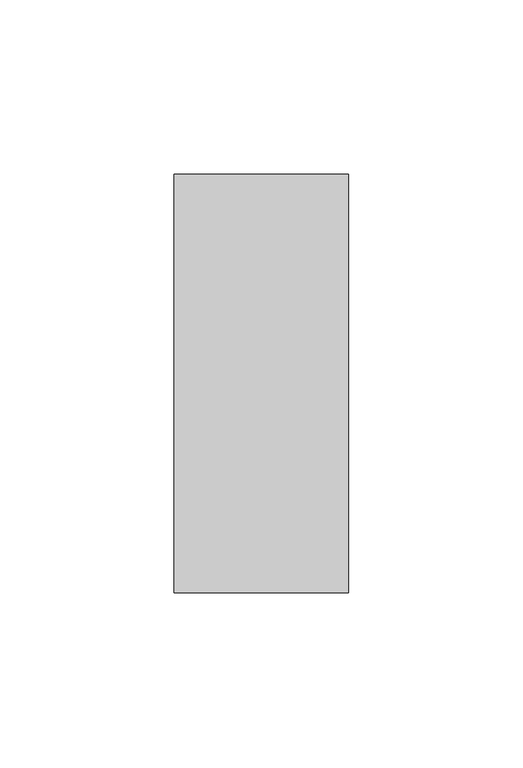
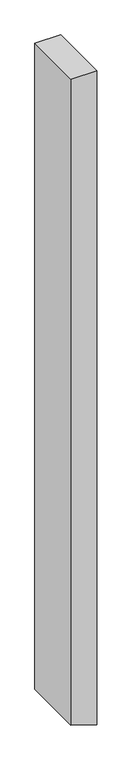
"""IFC4 building model written with IfcOpenShell, lengths in millimetres: member geometry, Прямоугольный импост : 50х120 мм."""

import ifcopenshell
import ifcopenshell.guid

model = None  # the IFC model being written
_history = None  # IfcOwnerHistory: only IFC2X3 demands one
_inside = {}  # id of a spatial element -> (the spatial element, [elements in it])
_under = {}  # id of a project, library or spatial element -> (it, [spatial elements below it])
_declared = {}  # id of a project -> (the project, [libraries it declares])
_typed = {}  # id of a type object -> (the type object, [elements of that type])
_made_of = {}  # id of a material, layer set ... -> (it, [elements and type objects made of it])


def new_model(schema):
    """Start an empty IFC model of exactly this schema.

    Asked for "IFC4X3", IfcOpenShell would pick the latest addendum, in which some entities
    have other attributes; the version numbers below select the first issue.
    IFC2X3 requires an IfcOwnerHistory on every rooted entity: one is made here for all.
    """
    global model, _history
    if schema == "IFC4X3":
        model = ifcopenshell.file(schema_version=(4, 3, 0, 0))
    else:
        model = ifcopenshell.file(schema=schema)
    _inside.clear()
    _under.clear()
    _declared.clear()
    _typed.clear()
    _made_of.clear()
    _history = None
    if model.schema == "IFC2X3":
        org = make("IfcOrganization", Name="unknown")
        user = make(
            "IfcPersonAndOrganization",
            ThePerson=make("IfcPerson", FamilyName="unknown"),
            TheOrganization=org,
        )
        app = make(
            "IfcApplication",
            ApplicationDeveloper=org,
            Version="unknown",
            ApplicationFullName="unknown",
            ApplicationIdentifier="unknown",
        )
        _history = make(
            "IfcOwnerHistory",
            OwningUser=user,
            OwningApplication=app,
            ChangeAction="ADDED",
            CreationDate=0,
        )
    return model


def make(cls, **values):
    """One entity of the class cls with the attributes given. An attribute that is None is left unset."""
    return model.create_entity(
        cls, **{name: value for name, value in values.items() if value is not None}
    )


def rooted(cls, **values):
    """An entity with a GlobalId (a new one), such as an element, a storey or a relation."""
    return make(cls, GlobalId=ifcopenshell.guid.new(), OwnerHistory=_history, **values)


def si_unit(unit_type, name, prefix=None):
    """IfcSIUnit, for example si_unit("LENGTHUNIT", "METRE", prefix="MILLI")."""
    return make("IfcSIUnit", UnitType=unit_type, Prefix=prefix, Name=name)


def assignment(units):
    """IfcUnitAssignment: the units of a project."""
    return None if units is None else make("IfcUnitAssignment", Units=units)


def point(xyz):
    """IfcCartesianPoint."""
    return None if xyz is None else make("IfcCartesianPoint", Coordinates=xyz)


def direction(xyz):
    """IfcDirection."""
    return None if xyz is None else make("IfcDirection", DirectionRatios=xyz)


def frame(location, z_axis=None, x_axis=None):
    """IfcAxis2Placement3D, a coordinate frame: its origin and axes. An axis left out is left unset."""
    return make(
        "IfcAxis2Placement3D",
        Location=point(location),
        Axis=direction(z_axis),
        RefDirection=direction(x_axis),
    )


def origin():
    """The frame at (0, 0, 0) with its axes left unset."""
    return frame((0.0, 0.0, 0.0))


def place(relative_to, where):
    """IfcLocalPlacement: puts the frame where relative to a parent placement (None: the world)."""
    return make(
        "IfcLocalPlacement", PlacementRelTo=relative_to, RelativePlacement=where
    )


def context(
    kind, dimensions, precision=None, world=None, true_north=None, identifier=None
):
    """IfcGeometricRepresentationContext, for example the 3D "Model" context."""
    return make(
        "IfcGeometricRepresentationContext",
        ContextIdentifier=identifier,
        ContextType=kind,
        CoordinateSpaceDimension=dimensions,
        Precision=precision,
        WorldCoordinateSystem=world,
        TrueNorth=true_north,
    )


def project(units=None, contexts=None):
    """IfcProject with its units and contexts."""
    return rooted(
        "IfcProject",
        Name="project",
        RepresentationContexts=contexts,
        UnitsInContext=assignment(units),
    )


def spatial(cls, under=None, at=None, **own):
    """A site, building, storey or space (cls), placed at a placement, below another one or the project."""
    s = rooted(cls, ObjectPlacement=at, **own)
    if under is not None:
        _under.setdefault(under.id(), (under, []))[1].append(s)
    return s


def polyline(points):
    """IfcPolyline through the points."""
    return make("IfcPolyline", Points=[point(p) for p in points])


def outline(outer, holes=None, kind="AREA"):
    """IfcArbitraryClosedProfileDef: a profile drawn as a closed curve; with holes, ...WithVoids."""
    if holes is None:
        return make("IfcArbitraryClosedProfileDef", ProfileType=kind, OuterCurve=outer)
    return make(
        "IfcArbitraryProfileDefWithVoids",
        ProfileType=kind,
        OuterCurve=outer,
        InnerCurves=holes,
    )


def extrude(swept, where, along, depth):
    """IfcExtrudedAreaSolid: the profile swept, set in the frame where, extruded along a direction by depth."""
    return make(
        "IfcExtrudedAreaSolid",
        SweptArea=swept,
        Position=where,
        ExtrudedDirection=direction(along),
        Depth=depth,
    )


def shape(context_of_items, identifier, shape_type, items):
    """IfcShapeRepresentation: the items that make up one representation, for example the "Body"."""
    return make(
        "IfcShapeRepresentation",
        ContextOfItems=context_of_items,
        RepresentationIdentifier=identifier,
        RepresentationType=shape_type,
        Items=items,
    )


def source(mapping_origin, context_of_items, identifier, shape_type, items):
    """IfcRepresentationMap: a shape defined once, which mapped items show again and again."""
    return make(
        "IfcRepresentationMap",
        MappingOrigin=mapping_origin,
        MappedRepresentation=shape(context_of_items, identifier, shape_type, items),
    )


def transform(
    local_origin,
    x_axis=None,
    y_axis=None,
    z_axis=None,
    scale=None,
    scale2=None,
    scale3=None,
    uniform=True,
):
    """IfcCartesianTransformationOperator3D, or its non-uniform kind. x_axis, y_axis, z_axis: its Axis1, 2, 3."""
    if uniform:
        return make(
            "IfcCartesianTransformationOperator3D",
            Axis1=direction(x_axis),
            Axis2=direction(y_axis),
            LocalOrigin=point(local_origin),
            Scale=scale,
            Axis3=direction(z_axis),
        )
    return make(
        "IfcCartesianTransformationOperator3DnonUniform",
        Axis1=direction(x_axis),
        Axis2=direction(y_axis),
        LocalOrigin=point(local_origin),
        Scale=scale,
        Axis3=direction(z_axis),
        Scale2=scale2,
        Scale3=scale3,
    )


def mapped(mapping_source, mapping_target):
    """IfcMappedItem: shows the shape of a source again, moved by a transform."""
    return make(
        "IfcMappedItem", MappingSource=mapping_source, MappingTarget=mapping_target
    )


def made_of(thing, what):
    """Note that an element or type object is made of a material, layer set ...; save() writes the relation."""
    if what is not None:
        _made_of.setdefault(what.id(), (what, []))[1].append(thing)
    return thing


def element(
    cls,
    number,
    at=None,
    inside=None,
    cuts=None,
    type_object=None,
    material=None,
    context=None,
    identifier="Body",
    shape_type=None,
    held_by="IfcProductDefinitionShape",
    body=None,
    shapes=None,
    **own,
):
    """One element of the class cls, such as IfcWall. Its Tag is "e" and its number.

    at: its placement. inside: the storey or other place that contains it. cuts: it is an
    opening in that element (IfcRelVoidsElement). A single representation is given by context,
    identifier, shape_type and body (its items); several are given by shapes. held_by: the class
    of the entity that holds the representations. save() writes the other relations.
    """
    e = rooted(cls, Tag="e%d" % number, ObjectPlacement=at, **own)
    if body is not None:
        shapes = [shape(context, identifier, shape_type, body)]
    if shapes is not None:
        e.Representation = make(held_by, Representations=shapes)
    if inside is not None:
        _inside.setdefault(inside.id(), (inside, []))[1].append(e)
    if cuts is not None:
        rooted(
            "IfcRelVoidsElement", RelatingBuildingElement=cuts, RelatedOpeningElement=e
        )
    if type_object is not None:
        _typed.setdefault(type_object.id(), (type_object, []))[1].append(e)
    return made_of(e, material)


def aggregate(whole, parts):
    """IfcRelAggregates: a whole, such as a stair, and the parts it consists of."""
    return rooted("IfcRelAggregates", RelatingObject=whole, RelatedObjects=parts)


def save(model, path):
    """Write the relations noted so far, then the file.

    IfcRelAggregates (storeys below a building ...), IfcRelContainedInSpatialStructure (elements
    in a storey), IfcRelDefinesByType, IfcRelAssociatesMaterial and IfcRelDeclares: one each for
    every whole, place, type object, material and project.
    """
    for whole, parts in _under.values():
        aggregate(whole, parts)
    for where, things in _inside.values():
        rooted(
            "IfcRelContainedInSpatialStructure",
            RelatedElements=things,
            RelatingStructure=where,
        )
    for kind, things in _typed.values():
        rooted("IfcRelDefinesByType", RelatedObjects=things, RelatingType=kind)
    for what, things in _made_of.values():
        rooted("IfcRelAssociatesMaterial", RelatedObjects=things, RelatingMaterial=what)
    for by, libraries in _declared.values():
        rooted("IfcRelDeclares", RelatingContext=by, RelatedDefinitions=libraries)
    model.write(path)


def member_df7b1f04(model_context):
    return source(origin(), model_context, "Body", "SweptSolid", [
        extrude(outline(polyline([(0.0, 25.0), (0.0, -25.0), (-1317.0914049, -25.0), (-1330.2346827, 15.4508497), (-1333.3373897, 25.0), (0.0, 25.0)])), frame((0.0, -60.0, 0.0), z_axis=(0.0, 1.0, 0.0), x_axis=(0.0, 0.0, 1.0)), (0.0, 0.0, 1.0), 120.0),
    ])


if __name__ == "__main__":
    model = new_model("IFC4")
    model_context = context("Model", 3, world=origin())
    ifc_project = project(units=[si_unit("LENGTHUNIT", "METRE", prefix="MILLI")], contexts=[model_context])
    site = spatial("IfcSite", under=ifc_project)
    building = spatial("IfcBuilding", under=site)
    placement = place(None, origin())
    member_shape = member_df7b1f04(model_context)
    element("IfcMember", 1, ObjectType="Прямоугольный импост : 50х120 мм", at=placement, inside=building, context=model_context, shape_type="MappedRepresentation", body=[
        mapped(member_shape, transform((0.0, 0.0, 0.0), x_axis=(1.0, 0.0, 0.0), y_axis=(0.0, 1.0, 0.0), z_axis=(0.0, 0.0, 1.0))),
    ])
    save(model, "model.ifc")
